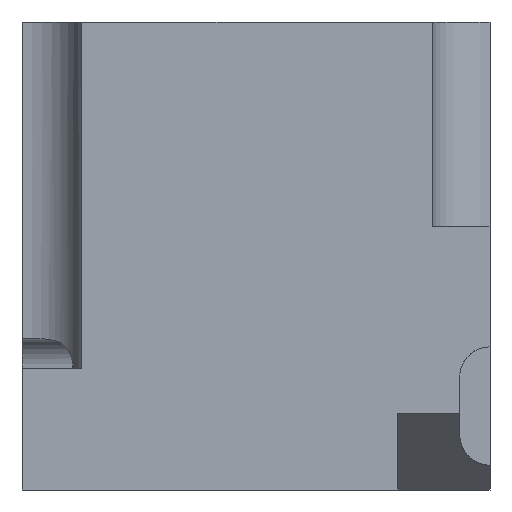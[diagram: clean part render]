
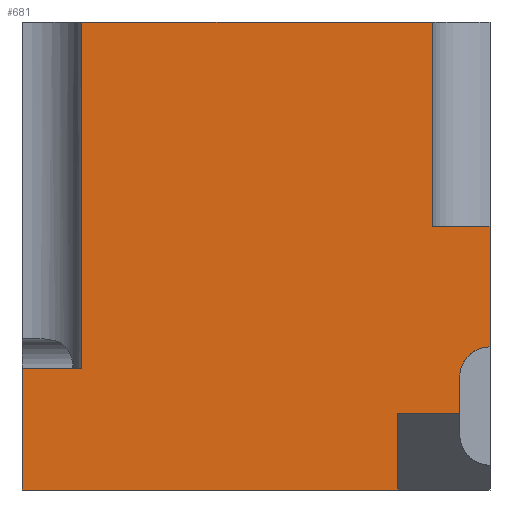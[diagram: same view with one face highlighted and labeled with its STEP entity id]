
A CAD part, left-side view. The second image highlights one B-rep face of the part: STEP entity #681.
In plain terms, the highlighted planar face has unit normal (-1, 0, 0).
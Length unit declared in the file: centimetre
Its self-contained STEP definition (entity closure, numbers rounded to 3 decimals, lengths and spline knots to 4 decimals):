
#13 = LINE ( 'NONE', #1371, #1097 ) ;
#19 = CARTESIAN_POINT ( 'NONE',  ( 0., 1000., 1000. ) ) ;
#59 = EDGE_CURVE ( 'NONE', #1009, #895, #806, .T. ) ;
#137 = DIRECTION ( 'NONE',  ( 0., 0., -1. ) ) ;
#147 = CARTESIAN_POINT ( 'NONE',  ( 0., 1000., 0. ) ) ;
#153 = CARTESIAN_POINT ( 'NONE',  ( 0., 872.5261, 259.7717 ) ) ;
#166 = CARTESIAN_POINT ( 'NONE',  ( 0., 1000., 259.7717 ) ) ;
#176 = CARTESIAN_POINT ( 'NONE',  ( 0., 197.2142, 164.0618 ) ) ;
#221 = CARTESIAN_POINT ( 'NONE',  ( 0., 197.2142, 0. ) ) ;
#230 = DIRECTION ( 'NONE',  ( 0., 0., -1. ) ) ;
#233 = CARTESIAN_POINT ( 'NONE',  ( 0., 122.761, 563.5521 ) ) ;
#239 = FACE_OUTER_BOUND ( 'NONE', #335, .T. ) ;
#246 = LINE ( 'NONE', #19, #1064 ) ;
#274 = DIRECTION ( 'NONE',  ( 0., -1., 0. ) ) ;
#287 = PLANE ( 'NONE',  #560 ) ;
#294 = VECTOR ( 'NONE', #981, 100. ) ;
#299 = CARTESIAN_POINT ( 'NONE',  ( 0., 1000., 0. ) ) ;
#300 = VERTEX_POINT ( 'NONE', #233 ) ;
#304 = DIRECTION ( 'NONE',  ( 0., -1., 0. ) ) ;
#321 = ORIENTED_EDGE ( 'NONE', *, *, #1230, .F. ) ;
#332 = CARTESIAN_POINT ( 'NONE',  ( 0., 197.2142, 164.0618 ) ) ;
#334 = VECTOR ( 'NONE', #274, 100. ) ;
#335 = EDGE_LOOP ( 'NONE', ( #385, #901, #861, #1332, #1293, #1007, #550, #1133, #1474, #794, #1258, #321 ) ) ;
#337 = AXIS2_PLACEMENT_3D ( 'NONE', #933, #457, #585 ) ;
#359 = CARTESIAN_POINT ( 'NONE',  ( 0., 872.5261, 259.7717 ) ) ;
#366 = CARTESIAN_POINT ( 'NONE',  ( 0., 1000., 563.5521 ) ) ;
#367 = EDGE_CURVE ( 'NONE', #1107, #1368, #1218, .T. ) ;
#385 = ORIENTED_EDGE ( 'NONE', *, *, #998, .F. ) ;
#408 = DIRECTION ( 'NONE',  ( 0., 0., -1. ) ) ;
#419 = VECTOR ( 'NONE', #827, 100. ) ;
#424 = CARTESIAN_POINT ( 'NONE',  ( 0., 122.761, 1000. ) ) ;
#426 = EDGE_CURVE ( 'NONE', #1051, #1302, #870, .T. ) ;
#457 = DIRECTION ( 'NONE',  ( -1., 0., 0. ) ) ;
#468 = VERTEX_POINT ( 'NONE', #965 ) ;
#474 = DIRECTION ( 'NONE',  ( 0., 0., -1. ) ) ;
#550 = ORIENTED_EDGE ( 'NONE', *, *, #426, .T. ) ;
#559 = CARTESIAN_POINT ( 'NONE',  ( 0., 872.5261, 1000. ) ) ;
#560 = AXIS2_PLACEMENT_3D ( 'NONE', #1333, #859, #408 ) ;
#585 = DIRECTION ( 'NONE',  ( 0., 0., 1. ) ) ;
#593 = CARTESIAN_POINT ( 'NONE',  ( 0., 122.761, 563.5521 ) ) ;
#679 = CARTESIAN_POINT ( 'NONE',  ( 0., 64.7005, 241.2284 ) ) ;
#681 = ADVANCED_FACE ( 'NONE', ( #239 ), #287, .F. ) ;
#683 = CARTESIAN_POINT ( 'NONE',  ( 0., 0., 1000. ) ) ;
#727 = CARTESIAN_POINT ( 'NONE',  ( 0., 64.7005, 241.2284 ) ) ;
#740 = LINE ( 'NONE', #176, #795 ) ;
#794 = ORIENTED_EDGE ( 'NONE', *, *, #1350, .F. ) ;
#795 = VECTOR ( 'NONE', #304, 100. ) ;
#806 = LINE ( 'NONE', #1390, #865 ) ;
#818 = VECTOR ( 'NONE', #941, 100. ) ;
#827 = DIRECTION ( 'NONE',  ( 0., -1., 0. ) ) ;
#833 = CARTESIAN_POINT ( 'NONE',  ( 0., 1000., 259.7717 ) ) ;
#859 = DIRECTION ( 'NONE',  ( 1., 0., 0. ) ) ;
#861 = ORIENTED_EDGE ( 'NONE', *, *, #59, .F. ) ;
#865 = VECTOR ( 'NONE', #1155, 100. ) ;
#870 = LINE ( 'NONE', #147, #334 ) ;
#895 = VERTEX_POINT ( 'NONE', #424 ) ;
#901 = ORIENTED_EDGE ( 'NONE', *, *, #910, .T. ) ;
#906 = VECTOR ( 'NONE', #931, 100. ) ;
#910 = EDGE_CURVE ( 'NONE', #300, #895, #1193, .T. ) ;
#911 = CARTESIAN_POINT ( 'NONE',  ( 0., 0., 305.9289 ) ) ;
#916 = LINE ( 'NONE', #359, #1011 ) ;
#931 = DIRECTION ( 'NONE',  ( 0., 0., 1. ) ) ;
#933 = CARTESIAN_POINT ( 'NONE',  ( 0., 0., 241.2284 ) ) ;
#941 = DIRECTION ( 'NONE',  ( 0., 0., -1. ) ) ;
#960 = LINE ( 'NONE', #727, #818 ) ;
#965 = CARTESIAN_POINT ( 'NONE',  ( 0., 64.7005, 164.0618 ) ) ;
#981 = DIRECTION ( 'NONE',  ( 0., -1., 0. ) ) ;
#998 = EDGE_CURVE ( 'NONE', #300, #1392, #1405, .T. ) ;
#1007 = ORIENTED_EDGE ( 'NONE', *, *, #1406, .T. ) ;
#1009 = VERTEX_POINT ( 'NONE', #559 ) ;
#1011 = VECTOR ( 'NONE', #230, 100. ) ;
#1051 = VERTEX_POINT ( 'NONE', #299 ) ;
#1064 = VECTOR ( 'NONE', #137, 100. ) ;
#1092 = EDGE_CURVE ( 'NONE', #1284, #468, #740, .T. ) ;
#1097 = VECTOR ( 'NONE', #1262, 100. ) ;
#1107 = VERTEX_POINT ( 'NONE', #166 ) ;
#1133 = ORIENTED_EDGE ( 'NONE', *, *, #1288, .F. ) ;
#1154 = LINE ( 'NONE', #683, #1316 ) ;
#1155 = DIRECTION ( 'NONE',  ( 0., -1., 0. ) ) ;
#1186 = VERTEX_POINT ( 'NONE', #911 ) ;
#1193 = LINE ( 'NONE', #593, #906 ) ;
#1201 = CARTESIAN_POINT ( 'NONE',  ( 0., 0., 563.5521 ) ) ;
#1218 = LINE ( 'NONE', #833, #294 ) ;
#1230 = EDGE_CURVE ( 'NONE', #1392, #1186, #1154, .T. ) ;
#1238 = EDGE_CURVE ( 'NONE', #1186, #1305, #1501, .T. ) ;
#1245 = EDGE_CURVE ( 'NONE', #1009, #1368, #916, .T. ) ;
#1258 = ORIENTED_EDGE ( 'NONE', *, *, #1238, .F. ) ;
#1262 = DIRECTION ( 'NONE',  ( 0., 0., -1. ) ) ;
#1284 = VERTEX_POINT ( 'NONE', #332 ) ;
#1288 = EDGE_CURVE ( 'NONE', #1284, #1302, #13, .T. ) ;
#1293 = ORIENTED_EDGE ( 'NONE', *, *, #367, .F. ) ;
#1302 = VERTEX_POINT ( 'NONE', #221 ) ;
#1305 = VERTEX_POINT ( 'NONE', #679 ) ;
#1316 = VECTOR ( 'NONE', #474, 100. ) ;
#1332 = ORIENTED_EDGE ( 'NONE', *, *, #1245, .T. ) ;
#1333 = CARTESIAN_POINT ( 'NONE',  ( 0., 1000., 1000. ) ) ;
#1350 = EDGE_CURVE ( 'NONE', #1305, #468, #960, .T. ) ;
#1368 = VERTEX_POINT ( 'NONE', #153 ) ;
#1371 = CARTESIAN_POINT ( 'NONE',  ( 0., 197.2142, 0. ) ) ;
#1390 = CARTESIAN_POINT ( 'NONE',  ( 0., 1000., 1000. ) ) ;
#1392 = VERTEX_POINT ( 'NONE', #1201 ) ;
#1405 = LINE ( 'NONE', #366, #419 ) ;
#1406 = EDGE_CURVE ( 'NONE', #1107, #1051, #246, .T. ) ;
#1474 = ORIENTED_EDGE ( 'NONE', *, *, #1092, .T. ) ;
#1501 = CIRCLE ( 'NONE', #337, 64.7005 ) ;
